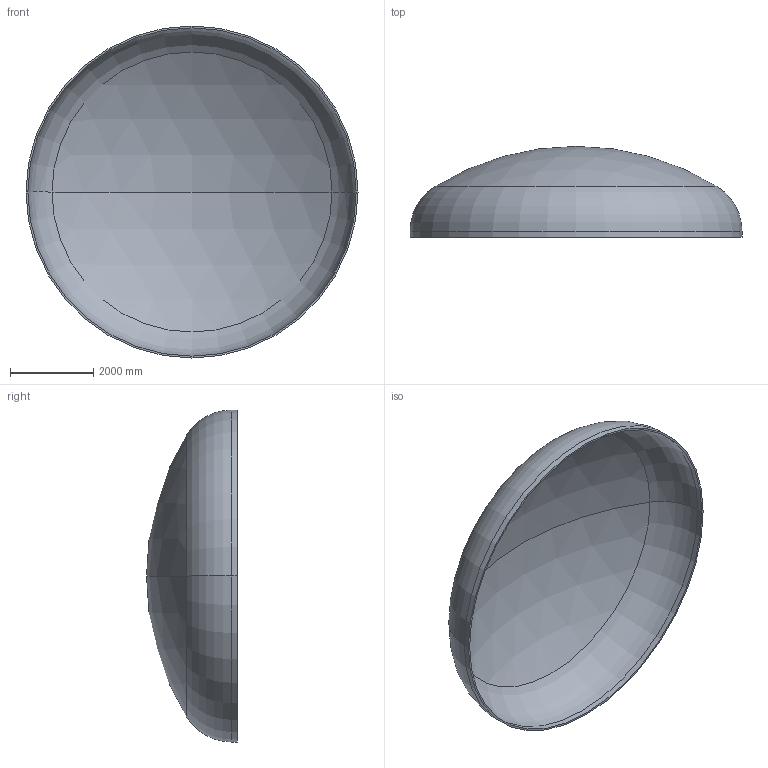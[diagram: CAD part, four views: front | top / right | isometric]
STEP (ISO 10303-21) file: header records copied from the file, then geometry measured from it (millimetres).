
FILE_DESCRIPTION (( 'STEP AP203' ), '1' );
FILE_NAME ('DIN 28013 Korbbogenform_-_Boden DIN 28013 - 8000 x 140 - I - s=44.step', '2016-07-04T11:01:44', ( '' ), ( '' ), 'SwSTEP 2.0', 'SolidWorks 2013', '' );
FILE_SCHEMA (( 'CONFIG_CONTROL_DESIGN' ));
Length unit declared in the file: millimetre
Products named in the file (1): DIN 28013 Korbbogenform_-_Boden DIN 28013 - 8000 x 140 - I - s=44
Bounding box: 8000 x 2191.07 x 8000 mm (x, y, z)
Volume: 3194044874.3 mm3; surface area: 146287614.1 mm2
Topology: 1 solids, 1 shells, 13 faces, 24 edges, 14 vertices
Faces by surface type: torus 4, cylinder 4, sphere 4, plane 1
Entity records: 407 total; most frequent: DIRECTION 72, CARTESIAN_POINT 52, ORIENTED_EDGE 48, AXIS2_PLACEMENT_3D 34, EDGE_CURVE 24, CIRCLE 20, EDGE_LOOP 14, VERTEX_POINT 14
